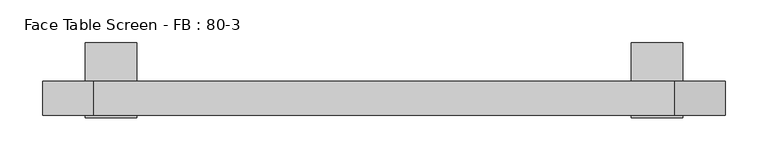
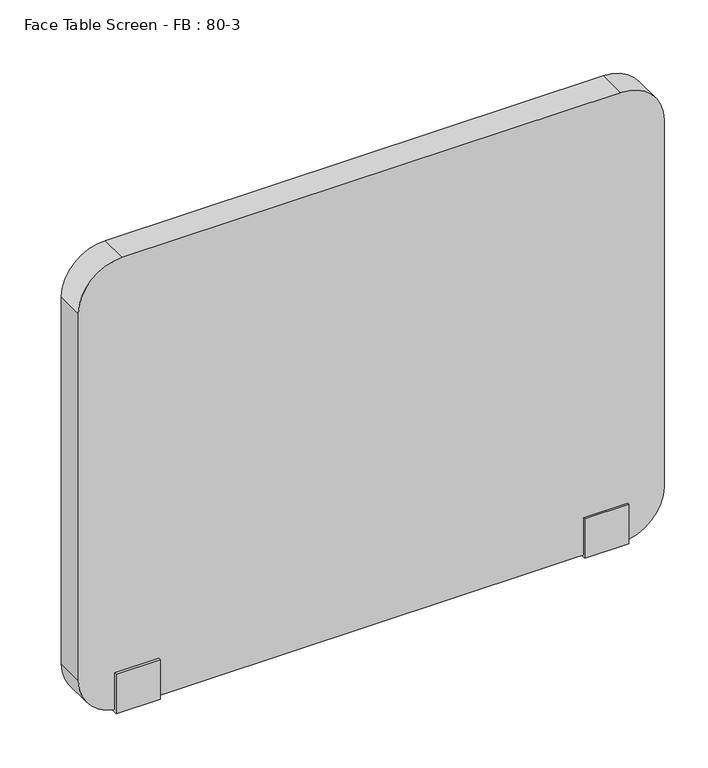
"""IFC4 building model written with IfcOpenShell, lengths in millimetres: furniture geometry, Face Table Screen - FB : 80-3."""

from ifc_helpers import new_model, si_unit, point, frame, frame_2d, origin, place, context, project, spatial, polyline, circle_curve, trimmed, segment, composite_curve, outline, extrude, source, transform, mapped, element, save


def face_table_screen_fb_80_3_34b48b4a(model_context):
    return source(origin(), model_context, "Body", "SweptSolid", [
        extrude(outline(polyline([(-42.9999947, -156.0), (-42.9999997, -99.0433898), (-40.0, -99.0433898), (-40.0, -153.0), (0.0, -153.0), (0.0, -22.0), (45.0, -22.0), (45.0, -25.0433898), (3.0000062, -25.0433898), (2.9999947, -156.0), (-42.9999947, -156.0)])), frame((309.9863751, 0.0, 0.0), z_axis=(1.0, 0.0, 0.0), x_axis=(0.0, 1.0, 0.0)), (0.0, 0.0, 1.0), 60.0),
        extrude(outline(polyline([(-42.9999947, -156.0), (-42.9999997, -99.0433898), (-40.0, -99.0433898), (-40.0, -153.0), (0.0, -153.0), (0.0, -22.0), (45.0, -22.0), (45.0, -25.0433898), (3.0000062, -25.0433898), (2.9999947, -156.0), (-42.9999947, -156.0)])), frame((-330.0136249, 0.0, 0.0), z_axis=(1.0, 0.0, 0.0), x_axis=(0.0, 1.0, 0.0)), (0.0, 0.0, 1.0), 60.0),
        extrude(outline(composite_curve([segment(polyline([(497.0, 359.9863751), (497.0, -320.0136249)]), True, "CONTINUOUS"), segment(trimmed(circle_curve(frame_2d((437.0, -320.0136249)), 60.0), [point((497.0, -320.0136249))], [point((437.0, -380.0136249))], False, "CARTESIAN"), True, "CONTINUOUS"), segment(polyline([(437.0, -380.0136249), (-93.0, -380.0136249)]), True, "CONTINUOUS"), segment(trimmed(circle_curve(frame_2d((-93.0, -320.0136249)), 60.0), [point((-93.0, -380.0136249))], [point((-153.0, -320.0136249))], False, "CARTESIAN"), True, "CONTINUOUS"), segment(polyline([(-153.0, -320.0136249), (-153.0, 359.9863751)]), True, "CONTINUOUS"), segment(trimmed(circle_curve(frame_2d((-93.0, 359.9863751)), 60.0), [point((-153.0, 359.9863751))], [point((-93.0, 419.9863751))], False, "CARTESIAN"), True, "CONTINUOUS"), segment(polyline([(-93.0, 419.9863751), (437.0, 419.9863751)]), True, "CONTINUOUS"), segment(trimmed(circle_curve(frame_2d((437.0, 359.9863751)), 60.0), [point((437.0, 419.9863751))], [point((497.0, 359.9863751))], False, "CARTESIAN"), True, "CONTINUOUS")], self_intersect=False)), frame((0.0, -40.0, 0.0), z_axis=(0.0, 1.0, 0.0), x_axis=(0.0, 0.0, 1.0)), (0.0, 0.0, 1.0), 40.0),
    ])


if __name__ == "__main__":
    model = new_model("IFC4")
    model_context = context("Model", 3, world=origin())
    ifc_project = project(units=[si_unit("LENGTHUNIT", "METRE", prefix="MILLI")], contexts=[model_context])
    site = spatial("IfcSite", under=ifc_project)
    building = spatial("IfcBuilding", under=site)
    placement = place(None, origin())
    face_table_screen_fb_80_3_shape = face_table_screen_fb_80_3_34b48b4a(model_context)
    element("IfcFurniture", 1, ObjectType="Face Table Screen - FB : 80-3", at=placement, inside=building, context=model_context, shape_type="MappedRepresentation", body=[
        mapped(face_table_screen_fb_80_3_shape, transform((0.0, 0.0, 0.0), x_axis=(1.0, 0.0, 0.0), y_axis=(0.0, 1.0, 0.0), z_axis=(0.0, 0.0, 1.0))),
    ])
    save(model, "model.ifc")
